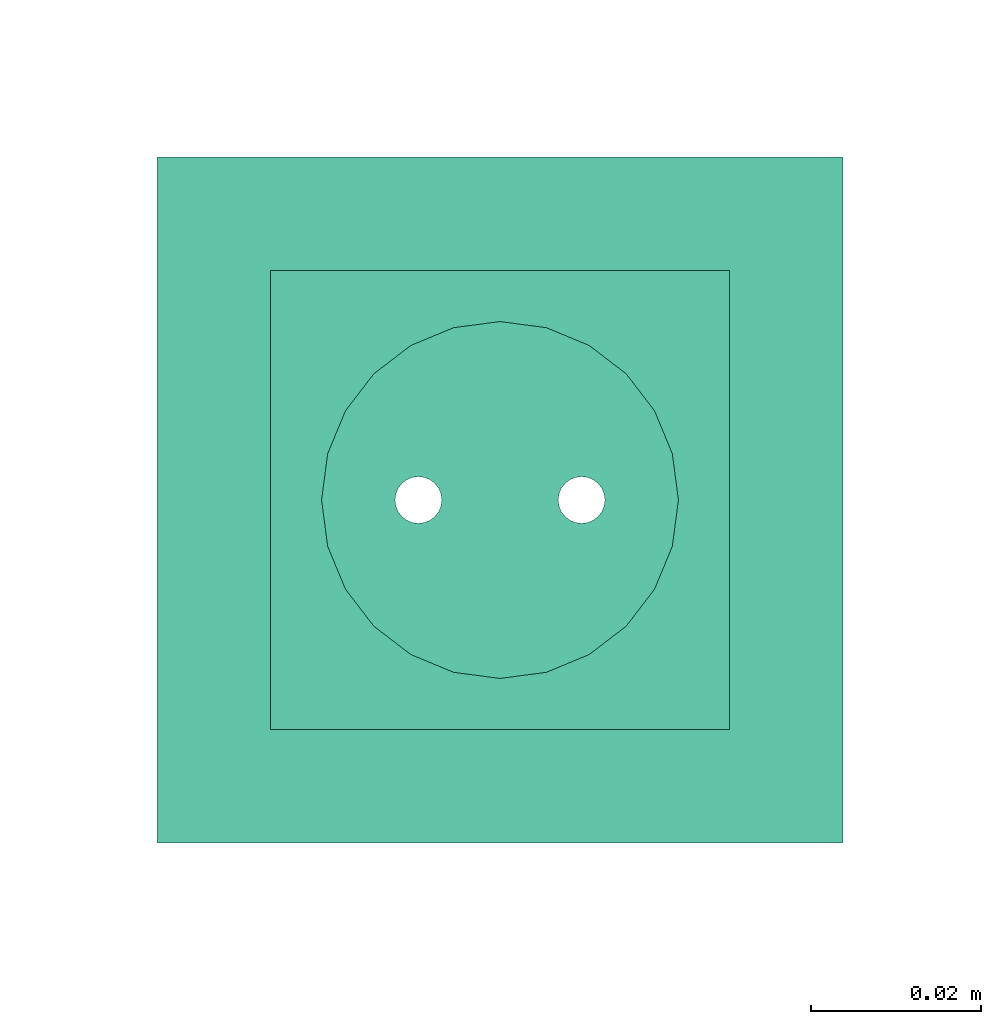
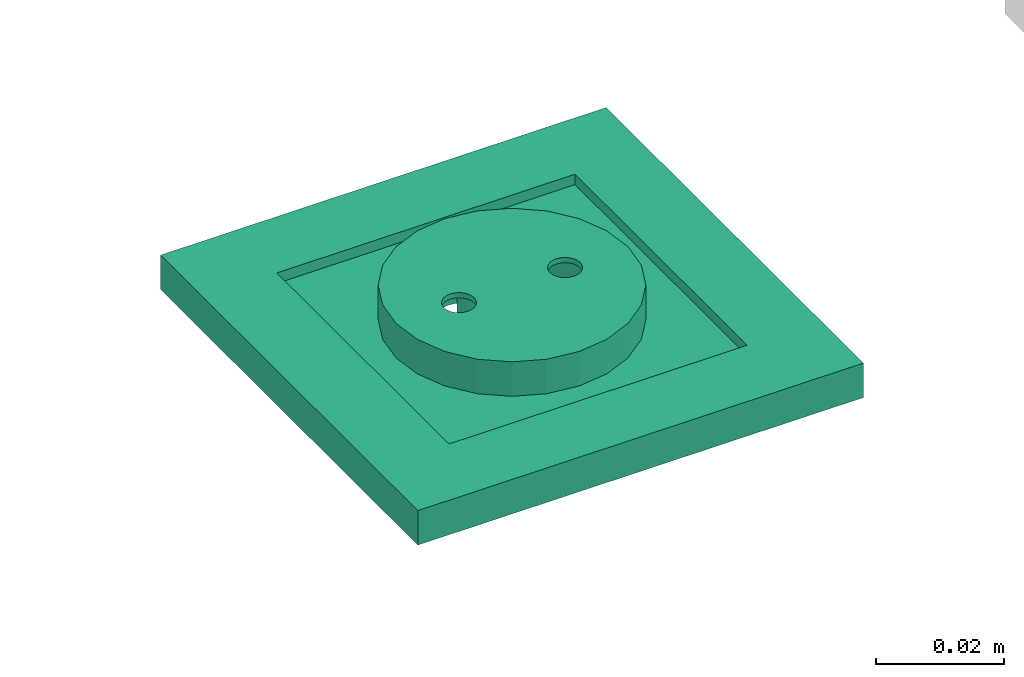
# One storey, part 15 of 146: 1 flow terminal.
"""IFC2X3 building model written with IfcOpenShell, lengths in metres."""

from ifc_helpers import new_model, entity, si_unit, converted_unit, derived_unit, direction, frame, origin, place, context, subcontext, project, spatial, face_set, surface_model, source, transform, mapped, type_object, type_shapes, element, save


model = new_model("IFC2X3")

# Units and contexts
model_context = context("Model", 3, precision=1e-05, world=origin(), true_north=direction((6.12303176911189e-17, 1.0)))
body_context = subcontext(model_context, "Body", "Model", "MODEL_VIEW")
ifc_project = project(units=[si_unit("LENGTHUNIT", "METRE"), si_unit("AREAUNIT", "SQUARE_METRE"), si_unit("VOLUMEUNIT", "CUBIC_METRE"), converted_unit("PLANEANGLEUNIT", "DEGREE", entity("IfcRatioMeasure", 0.0174532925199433), si_unit("PLANEANGLEUNIT", "RADIAN"), dimensions=[0, 0, 0, 0, 0, 0, 0]), si_unit("MASSUNIT", "GRAM", prefix="KILO"), derived_unit("MASSDENSITYUNIT", [(si_unit("MASSUNIT", "GRAM", prefix="KILO"), 1), (si_unit("LENGTHUNIT", "METRE"), -3)]), si_unit("TIMEUNIT", "SECOND"), si_unit("FREQUENCYUNIT", "HERTZ"), si_unit("THERMODYNAMICTEMPERATUREUNIT", "DEGREE_CELSIUS"), derived_unit("THERMALTRANSMITTANCEUNIT", [(si_unit("MASSUNIT", "GRAM", prefix="KILO"), 1), (si_unit("THERMODYNAMICTEMPERATUREUNIT", "KELVIN"), -1), (si_unit("TIMEUNIT", "SECOND"), -3)]), derived_unit("VOLUMETRICFLOWRATEUNIT", [(si_unit("LENGTHUNIT", "METRE"), 3), (si_unit("TIMEUNIT", "SECOND"), -1)]), si_unit("ELECTRICCURRENTUNIT", "AMPERE"), si_unit("ELECTRICVOLTAGEUNIT", "VOLT"), si_unit("POWERUNIT", "WATT"), si_unit("FORCEUNIT", "NEWTON"), si_unit("ILLUMINANCEUNIT", "LUX"), si_unit("LUMINOUSFLUXUNIT", "LUMEN"), si_unit("LUMINOUSINTENSITYUNIT", "CANDELA"), derived_unit("USERDEFINED", [(si_unit("MASSUNIT", "GRAM", prefix="KILO"), -1), (si_unit("LENGTHUNIT", "METRE"), -2), (si_unit("TIMEUNIT", "SECOND"), 3), (si_unit("LUMINOUSFLUXUNIT", "LUMEN"), 1)]), derived_unit("LINEARVELOCITYUNIT", [(si_unit("LENGTHUNIT", "METRE"), 1), (si_unit("TIMEUNIT", "SECOND"), -1)]), si_unit("PRESSUREUNIT", "PASCAL"), derived_unit("USERDEFINED", [(si_unit("LENGTHUNIT", "METRE"), -2), (si_unit("MASSUNIT", "GRAM", prefix="KILO"), 1), (si_unit("TIMEUNIT", "SECOND"), -2)])], contexts=[model_context])

# Site, building, storey
site_placement = place(None, origin())
site = spatial("IfcSite", under=ifc_project, at=site_placement, Name="Default", CompositionType="ELEMENT")
building_placement = place(site_placement, origin())
building = spatial("IfcBuilding", under=site, at=building_placement, CompositionType="ELEMENT")
storey_placement = place(building_placement, origin())
storey = spatial("IfcBuildingStorey", under=building, at=storey_placement, Name="S01", CompositionType="ELEMENT", Elevation=0.0)

# Flow terminal
light_fixture_type = type_object("IfcLightFixtureType", Name="PC IP21", PredefinedType="NOTDEFINED")
shared_shape = source(origin(), body_context, "Body", "SurfaceModel", [
    surface_model("IfcFaceBasedSurfaceModel", [(-0.00225000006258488, 0.0127499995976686, 0.00949633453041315), (0.0, 0.0104999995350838, 0.00949633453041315), (0.0, 0.0115376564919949, 0.0101656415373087), (0.0, 0.0139623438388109, 0.0101656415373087), (0.0, 0.0144589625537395, 0.00984531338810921), (0.0, 0.0121178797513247, 0.0102778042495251), (0.0, 0.0133821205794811, 0.0102778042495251), (0.0, 0.0127499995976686, 0.010399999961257), (0.0, 0.0149999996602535, 0.00949633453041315), (0.00225000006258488, 0.0127499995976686, 0.00949633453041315), (0.0, 0.0110410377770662, 0.00984531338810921), (0.0, 0.0127499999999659, 0.00949633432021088), (0.00225000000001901, 0.0127499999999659, 0.00949633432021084), (0.00217333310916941, 0.0121676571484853, 0.00949633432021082), (0.00194855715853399, 0.0116249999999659, 0.00949633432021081), (0.00159099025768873, 0.0111590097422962, 0.00949633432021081), (0.001125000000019, 0.010801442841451, 0.00949633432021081), (0.00058234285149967, 0.0105766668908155, 0.00949633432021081), (0.0, 0.0104999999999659, 0.00949633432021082), (-0.000582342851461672, 0.0105766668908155, 0.00949633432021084), (-0.001124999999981, 0.010801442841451, 0.00949633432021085), (-0.00159099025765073, 0.0111590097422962, 0.00949633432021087), (-0.00194855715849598, 0.011624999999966, 0.00949633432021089), (-0.0021733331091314, 0.0121676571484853, 0.00949633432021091), (-0.00224999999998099, 0.012749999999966, 0.00949633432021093), (-0.00217333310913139, 0.0133323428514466, 0.00949633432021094), (-0.00194855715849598, 0.013874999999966, 0.00949633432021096), (-0.00159099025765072, 0.0143409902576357, 0.00949633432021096), (-0.00112499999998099, 0.0146985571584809, 0.00949633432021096), (-0.00058234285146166, 0.0149233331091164, 0.00949633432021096), (0.0, 0.0149999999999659, 0.00949633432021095), (0.000582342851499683, 0.0149233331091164, 0.00949633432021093), (0.00112500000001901, 0.0146985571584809, 0.00949633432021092), (0.00159099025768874, 0.0143409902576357, 0.00949633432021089), (0.001948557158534, 0.0138749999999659, 0.00949633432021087), (0.00217333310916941, 0.0133323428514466, 0.00949633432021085), (0.00225000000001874, 0.0127499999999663, -0.00360000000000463), (0.00217333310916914, 0.0121676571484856, -0.00360000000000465), (0.00194855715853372, 0.0116249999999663, -0.00360000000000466), (0.00159099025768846, 0.0111590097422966, -0.00360000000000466), (0.00112500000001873, 0.0108014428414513, -0.00360000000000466), (0.000582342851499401, 0.0105766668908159, -0.00360000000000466), (0.0, 0.0104999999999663, -0.00360000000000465), (-0.000582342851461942, 0.0105766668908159, -0.00360000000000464), (-0.00112499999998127, 0.0108014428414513, -0.00360000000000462), (-0.001590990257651, 0.0111590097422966, -0.0036000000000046), (-0.00194855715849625, 0.0116249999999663, -0.00360000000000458), (-0.00217333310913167, 0.0121676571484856, -0.00360000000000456), (-0.00224999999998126, 0.0127499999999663, -0.00360000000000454), (-0.00217333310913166, 0.013332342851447, -0.00360000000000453), (-0.00194855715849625, 0.0138749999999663, -0.00360000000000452), (-0.00159099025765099, 0.014340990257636, -0.00360000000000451), (-0.00112499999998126, 0.0146985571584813, -0.00360000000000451), (-0.000582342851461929, 0.0149233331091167, -0.00360000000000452), (0.0, 0.0149999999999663, -0.00360000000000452), (0.000582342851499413, 0.0149233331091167, -0.00360000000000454), (0.00112500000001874, 0.0146985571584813, -0.00360000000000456), (0.00159099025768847, 0.014340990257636, -0.00360000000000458), (0.00194855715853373, 0.0138749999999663, -0.0036000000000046), (0.00217333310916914, 0.013332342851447, -0.00360000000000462), (0.0270000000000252, 0.026999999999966, 0.0113999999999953), (-0.0269999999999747, 0.026999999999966, 0.0113999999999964), (-0.0269999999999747, -0.0270000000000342, 0.0113999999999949), (0.0270000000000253, -0.0270000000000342, 0.0113999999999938), (-0.0199999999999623, 0.0, 0.0113999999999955), (-0.0193185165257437, -0.00517638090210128, 0.0113999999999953), (-0.0173205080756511, -0.0100000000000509, 0.0113999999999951), (-0.0141421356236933, -0.0141421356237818, 0.011399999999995), (-0.00999999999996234, -0.0173205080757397, 0.0113999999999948), (-0.00517638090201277, -0.0193185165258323, 0.0113999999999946), (0.0, -0.0200000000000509, 0.0113999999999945), (0.00517638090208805, -0.0193185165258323, 0.0113999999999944), (0.0100000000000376, -0.0173205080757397, 0.0113999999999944), (0.0141421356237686, -0.0141421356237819, 0.0113999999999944), (0.0173205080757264, -0.010000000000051, 0.0113999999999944), (0.0193185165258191, -0.00517638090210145, 0.0113999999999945), (0.0200000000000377, 0.0, 0.0113999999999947), (0.0193185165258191, 0.00517638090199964, 0.0113999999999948), (0.0173205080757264, 0.0099999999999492, 0.011399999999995), (0.0141421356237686, 0.0141421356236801, 0.0113999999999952), (0.0100000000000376, 0.0173205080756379, 0.0113999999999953), (0.00517638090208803, 0.0193185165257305, 0.0113999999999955), (0.0, 0.0199999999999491, 0.0113999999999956), (-0.00517638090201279, 0.0193185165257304, 0.0113999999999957), (-0.00999999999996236, 0.0173205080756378, 0.0113999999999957), (-0.0141421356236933, 0.01414213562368, 0.0113999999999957), (-0.0173205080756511, 0.00999999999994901, 0.0113999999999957), (-0.0193185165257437, 0.00517638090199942, 0.0113999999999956), (0.0270000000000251, 0.0269999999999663, 0.00199999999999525), (0.0270000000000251, -0.0270000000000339, 0.00199999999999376), (-0.0269999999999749, -0.0270000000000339, 0.00199999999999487), (-0.0269999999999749, 0.0269999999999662, 0.00199999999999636), (0.0210000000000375, 0.0, 0.00199999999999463), (0.0202844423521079, -0.00543519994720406, 0.00199999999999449), (0.0181865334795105, -0.0105000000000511, 0.0019999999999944), (0.0148492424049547, -0.0148492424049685, 0.00199999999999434), (0.0105000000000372, -0.0181865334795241, 0.00199999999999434), (0.0054351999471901, -0.0202844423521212, 0.00199999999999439), (0.0, -0.0210000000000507, 0.00199999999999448), (-0.00543519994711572, -0.020284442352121, 0.00199999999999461), (-0.0104999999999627, -0.0181865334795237, 0.00199999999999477), (-0.0148492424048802, -0.014849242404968, 0.00199999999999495), (-0.0181865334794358, -0.0105000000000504, 0.00199999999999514), (-0.020284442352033, -0.00543519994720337, 0.00199999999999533), (-0.0209999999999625, 0.0, 0.00199999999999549), (-0.0202844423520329, 0.0054351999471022, 0.00199999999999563), (-0.0181865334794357, 0.0104999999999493, 0.00199999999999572), (-0.01484924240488, 0.0148492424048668, 0.00199999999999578), (-0.0104999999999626, 0.0181865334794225, 0.00199999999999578), (-0.00543519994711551, 0.0202844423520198, 0.00199999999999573), (0.0, 0.0209999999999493, 0.00199999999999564), (0.00543519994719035, 0.0202844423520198, 0.00199999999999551), (0.0105000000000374, 0.0181865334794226, 0.00199999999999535), (0.0148492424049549, 0.0148492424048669, 0.00199999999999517), (0.0181865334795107, 0.0104999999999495, 0.00199999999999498), (0.0202844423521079, 0.00543519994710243, 0.00199999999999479), (0.0200000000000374, 0.0, -0.00360000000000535), (0.0193185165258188, -0.00517638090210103, -0.00360000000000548), (0.0173205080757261, -0.0100000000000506, -0.00360000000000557), (0.0141421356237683, -0.0141421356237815, -0.00360000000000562), (0.0100000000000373, -0.0173205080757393, -0.00360000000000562), (0.00517638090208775, -0.0193185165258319, -0.00360000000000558), (0.0, -0.0200000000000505, -0.00360000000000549), (-0.00517638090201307, -0.0193185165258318, -0.00360000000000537), (-0.00999999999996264, -0.0173205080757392, -0.00360000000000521), (-0.0141421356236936, -0.0141421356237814, -0.00360000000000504), (-0.0173205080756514, -0.0100000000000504, -0.00360000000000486), (-0.019318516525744, -0.00517638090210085, -0.00360000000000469), (-0.0199999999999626, 0.0, -0.00360000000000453), (-0.0193185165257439, 0.00517638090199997, -0.0036000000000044), (-0.0173205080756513, 0.00999999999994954, -0.00360000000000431), (-0.0141421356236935, 0.0141421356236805, -0.00360000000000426), (-0.00999999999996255, 0.0173205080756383, -0.00360000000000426), (-0.00517638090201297, 0.0193185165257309, -0.0036000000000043), (0.0, 0.0199999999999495, -0.00360000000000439), (0.00517638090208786, 0.0193185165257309, -0.00360000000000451), (0.0100000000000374, 0.0173205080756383, -0.00360000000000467), (0.0141421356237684, 0.0141421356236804, -0.00360000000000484), (0.0173205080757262, 0.0099999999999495, -0.00360000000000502), (0.0193185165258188, 0.00517638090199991, -0.00360000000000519), (-0.0123499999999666, 0.0, -0.00360000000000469), (-0.0122562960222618, -0.000711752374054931, -0.00360000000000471), (-0.0119815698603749, -0.00137500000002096, -0.00360000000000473), (-0.0115445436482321, -0.00194454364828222, -0.00360000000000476), (-0.0109749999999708, -0.00238156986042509, -0.00360000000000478), (-0.0103117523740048, -0.00265629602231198, -0.0036000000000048), (-0.00959999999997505, -0.00275000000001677, -0.00360000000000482), (-0.0088882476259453, -0.00265629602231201, -0.00360000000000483), (-0.00822499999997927, -0.00238156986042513, -0.00360000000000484), (-0.00765545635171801, -0.00194454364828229, -0.00360000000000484), (-0.00721843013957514, -0.00137500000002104, -0.00360000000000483), (-0.00694370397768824, -0.000711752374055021, -0.00360000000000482), (-0.00684999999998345, 0.0, -0.0036000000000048), (-0.00694370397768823, 0.000711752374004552, -0.00360000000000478), (-0.00721843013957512, 0.00137499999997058, -0.00360000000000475), (-0.00765545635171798, 0.00194454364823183, -0.00360000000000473), (-0.00822499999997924, 0.00238156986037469, -0.0036000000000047), (-0.00888824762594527, 0.00265629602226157, -0.00360000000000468), (-0.00959999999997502, 0.00274999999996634, -0.00360000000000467), (-0.0103117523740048, 0.00265629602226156, -0.00360000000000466), (-0.0109749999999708, 0.00238156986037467, -0.00360000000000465), (-0.011544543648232, 0.00194454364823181, -0.00360000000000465), (-0.0119815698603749, 0.00137499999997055, -0.00360000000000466), (-0.0122562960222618, 0.000711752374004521, -0.00360000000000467), (0.00685000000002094, 0.0, -0.00360000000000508), (0.0069437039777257, -0.00071175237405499, -0.0036000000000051), (0.00721843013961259, -0.00137500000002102, -0.00360000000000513), (0.00765545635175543, -0.00194454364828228, -0.00360000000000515), (0.00822500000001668, -0.00238156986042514, -0.00360000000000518), (0.00888824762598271, -0.00265629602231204, -0.0036000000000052), (0.00960000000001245, -0.00275000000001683, -0.00360000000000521), (0.0103117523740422, -0.00265629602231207, -0.00360000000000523), (0.0109750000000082, -0.00238156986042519, -0.00360000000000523), (0.0115445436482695, -0.00194454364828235, -0.00360000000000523), (0.0119815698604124, -0.0013750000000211, -0.00360000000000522), (0.0122562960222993, -0.00071175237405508, -0.00360000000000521), (0.012350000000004, 0.0, -0.00360000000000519), (0.0122562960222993, 0.000711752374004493, -0.00360000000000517), (0.0119815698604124, 0.00137499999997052, -0.00360000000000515), (0.0115445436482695, 0.00194454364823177, -0.00360000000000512), (0.0109750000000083, 0.00238156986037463, -0.0036000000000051), (0.0103117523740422, 0.00265629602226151, -0.00360000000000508), (0.00960000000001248, 0.00274999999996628, -0.00360000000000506), (0.00888824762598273, 0.0026562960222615, -0.00360000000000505), (0.0082250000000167, 0.00238156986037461, -0.00360000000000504), (0.00765545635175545, 0.00194454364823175, -0.00360000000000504), (0.0072184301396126, 0.00137499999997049, -0.00360000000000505), (0.00694370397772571, 0.000711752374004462, -0.00360000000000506), (0.0210000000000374, 0.0, -0.00460000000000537), (0.0202844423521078, -0.00543519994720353, -0.00460000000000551), (0.0181865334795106, -0.0105000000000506, -0.0046000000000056), (0.0148492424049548, -0.0148492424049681, -0.00460000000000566), (0.0105000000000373, -0.0181865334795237, -0.00460000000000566), (0.00543519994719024, -0.0202844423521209, -0.00460000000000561), (0.0, -0.0210000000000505, -0.00460000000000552), (-0.00543519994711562, -0.0202844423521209, -0.00460000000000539), (-0.0104999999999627, -0.0181865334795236, -0.00460000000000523), (-0.0148492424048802, -0.0148492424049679, -0.00460000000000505), (-0.0181865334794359, -0.0105000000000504, -0.00460000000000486), (-0.0202844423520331, -0.00543519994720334, -0.00460000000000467), (-0.0209999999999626, 0.0, -0.00460000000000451), (-0.020284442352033, 0.00543519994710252, -0.00460000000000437), (-0.0181865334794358, 0.0104999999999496, -0.00460000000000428), (-0.0148492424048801, 0.0148492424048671, -0.00460000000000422), (-0.0104999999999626, 0.0181865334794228, -0.00460000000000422), (-0.00543519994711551, 0.02028444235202, -0.00460000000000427), (0.0, 0.0209999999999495, -0.00460000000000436), (0.00543519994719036, 0.02028444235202, -0.00460000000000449), (0.0105000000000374, 0.0181865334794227, -0.00460000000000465), (0.0148492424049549, 0.014849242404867, -0.00460000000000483), (0.0181865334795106, 0.0104999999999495, -0.00460000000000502), (0.0202844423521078, 0.00543519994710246, -0.00460000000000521), (-0.00684999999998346, 0.0, -0.0046000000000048), (-0.00694370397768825, 0.000711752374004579, -0.00460000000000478), (-0.00721843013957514, 0.00137499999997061, -0.00460000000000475), (-0.007655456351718, 0.00194454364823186, -0.00460000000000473), (-0.00822499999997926, 0.00238156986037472, -0.0046000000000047), (-0.00888824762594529, 0.0026562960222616, -0.00460000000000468), (-0.00959999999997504, 0.00274999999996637, -0.00460000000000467), (-0.0103117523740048, 0.00265629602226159, -0.00460000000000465), (-0.0109749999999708, 0.0023815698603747, -0.00460000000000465), (-0.0115445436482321, 0.00194454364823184, -0.00460000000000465), (-0.0119815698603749, 0.00137499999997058, -0.00460000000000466), (-0.0122562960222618, 0.000711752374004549, -0.00460000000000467), (-0.0123499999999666, 0.0, -0.00460000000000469), (-0.0122562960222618, -0.000711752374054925, -0.00460000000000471), (-0.0119815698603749, -0.00137500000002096, -0.00460000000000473), (-0.0115445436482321, -0.00194454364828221, -0.00460000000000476), (-0.0109749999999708, -0.00238156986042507, -0.00460000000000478), (-0.0103117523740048, -0.00265629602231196, -0.0046000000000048), (-0.00959999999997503, -0.00275000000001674, -0.00460000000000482), (-0.00888824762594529, -0.00265629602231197, -0.00460000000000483), (-0.00822499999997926, -0.00238156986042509, -0.00460000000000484), (-0.007655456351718, -0.00194454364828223, -0.00460000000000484), (-0.00721843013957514, -0.00137500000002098, -0.00460000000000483), (-0.00694370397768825, -0.000711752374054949, -0.00460000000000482), (0.012350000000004, 0.0, -0.00460000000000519), (0.0122562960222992, 0.000711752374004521, -0.00460000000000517), (0.0119815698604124, 0.00137499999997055, -0.00460000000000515), (0.0115445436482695, 0.0019445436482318, -0.00460000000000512), (0.0109750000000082, 0.00238156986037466, -0.0046000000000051), (0.0103117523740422, 0.00265629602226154, -0.00460000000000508), (0.00960000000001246, 0.00274999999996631, -0.00460000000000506), (0.00888824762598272, 0.00265629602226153, -0.00460000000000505), (0.00822500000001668, 0.00238156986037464, -0.00460000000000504), (0.00765545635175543, 0.00194454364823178, -0.00460000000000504), (0.00721843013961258, 0.00137499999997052, -0.00460000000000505), (0.00694370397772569, 0.00071175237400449, -0.00460000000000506), (0.00685000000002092, 0.0, -0.00460000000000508), (0.00694370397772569, -0.000711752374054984, -0.0046000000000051), (0.00721843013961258, -0.00137500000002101, -0.00460000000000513), (0.00765545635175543, -0.00194454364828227, -0.00460000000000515), (0.00822500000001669, -0.00238156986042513, -0.00460000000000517), (0.00888824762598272, -0.00265629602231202, -0.0046000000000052), (0.00960000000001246, -0.0027500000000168, -0.00460000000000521), (0.0103117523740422, -0.00265629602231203, -0.00460000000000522), (0.0109750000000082, -0.00238156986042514, -0.00460000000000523), (0.0115445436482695, -0.00194454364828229, -0.00460000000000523), (0.0119815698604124, -0.00137500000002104, -0.00460000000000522), (0.0122562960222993, -0.000711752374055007, -0.00460000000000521), (0.040350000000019, 0.0403499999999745, 0.00659999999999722), (0.040350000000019, -0.0403500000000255, 0.00659999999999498), (-0.0403499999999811, -0.0403500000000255, 0.00659999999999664), (-0.0403499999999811, 0.0403499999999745, 0.00659999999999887), (0.027000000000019, 0.0269999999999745, 0.00659999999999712), (-0.0269999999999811, 0.0269999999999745, 0.00659999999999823), (-0.026999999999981, -0.0270000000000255, 0.00659999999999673), (0.027000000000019, -0.0270000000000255, 0.00659999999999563), (0.027000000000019, 0.0269999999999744, 0.0103999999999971), (-0.026999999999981, 0.0269999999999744, 0.0103999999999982), (-0.026999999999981, -0.0270000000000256, 0.0103999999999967), (0.027000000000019, -0.0270000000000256, 0.0103999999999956), (0.040350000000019, 0.0403499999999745, 0.00659999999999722), (0.040350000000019, -0.0403500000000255, 0.00659999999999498), (-0.0403499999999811, -0.0403500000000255, 0.00659999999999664), (-0.0403499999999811, 0.0403499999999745, 0.00659999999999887), (-0.0269999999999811, 0.0269999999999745, 0.00659999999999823), (-0.0269999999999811, -0.0270000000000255, 0.00659999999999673), (0.0270000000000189, -0.0270000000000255, 0.00659999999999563), (0.0270000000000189, 0.0269999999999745, 0.00659999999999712), (0.0403500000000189, 0.0403499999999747, 0.0), (0.0403500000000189, -0.0403500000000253, 0.0), (-0.0403499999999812, -0.0403500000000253, 0.0), (-0.0403499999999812, 0.0403499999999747, 0.0), (0.0270000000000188, 0.0269999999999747, 0.0), (-0.0269999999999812, 0.0269999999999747, 0.0), (-0.0269999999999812, -0.0270000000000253, 0.0), (0.0270000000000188, -0.0270000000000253, 0.0)], [face_set([[[0, 1, 2]], [[3, 4, 2, 5]], [[6, 3, 5, 7]], [[2, 4, 0]], [[4, 8, 0]], [[3, 9, 8]], [[1, 9, 10]], [[2, 3, 6, 7]], [[3, 10, 9]], [[2, 10, 3]], [[11, 1, 0, 8]], [[11, 8, 9, 1]]]), face_set([[[12, 13, 14, 15, 16, 17, 18, 19, 20, 21, 22, 23, 24, 25, 26, 27, 28, 29, 30, 31, 32, 33, 34, 35]], [[36, 37, 38, 39, 40, 41, 42, 43, 44, 45, 46, 47, 48, 49, 50, 51, 52, 53, 54, 55, 56, 57, 58, 59]], [[48, 47, 23, 24]], [[47, 46, 22, 23]], [[45, 44, 20, 21]], [[46, 45, 21, 22]], [[44, 43, 19, 20]], [[18, 19, 43, 42]], [[42, 41, 17, 18]], [[41, 40, 16, 17]], [[39, 38, 14, 15]], [[40, 39, 15, 16]], [[38, 37, 13, 14]], [[12, 13, 37, 36]], [[36, 59, 35, 12]], [[59, 58, 34, 35]], [[57, 56, 32, 33]], [[58, 57, 33, 34]], [[56, 55, 31, 32]], [[30, 31, 55, 54]], [[54, 53, 29, 30]], [[53, 52, 28, 29]], [[51, 50, 26, 27]], [[52, 51, 27, 28]], [[50, 49, 25, 26]], [[24, 25, 49, 48]]]), face_set([[[60, 61, 62, 63], [64, 65, 66, 67, 68, 69, 70, 71, 72, 73, 74, 75, 76, 77, 78, 79, 80, 81, 82, 83, 84, 85, 86, 87]], [[88, 89, 90, 91], [92, 93, 94, 95, 96, 97, 98, 99, 100, 101, 102, 103, 104, 105, 106, 107, 108, 109, 110, 111, 112, 113, 114, 115]], [[61, 60, 88, 91]], [[62, 61, 91, 90]], [[63, 62, 90, 89]], [[60, 63, 89, 88]], [[116, 117, 118, 119, 120, 121, 122, 123, 124, 125, 126, 127, 128, 129, 130, 131, 132, 133, 134, 135, 136, 137, 138, 139], [140, 141, 142, 143, 144, 145, 146, 147, 148, 149, 150, 151, 152, 153, 154, 155, 156, 157, 158, 159, 160, 161, 162, 163], [164, 165, 166, 167, 168, 169, 170, 171, 172, 173, 174, 175, 176, 177, 178, 179, 180, 181, 182, 183, 184, 185, 186, 187]], [[64, 128, 127, 65]], [[65, 127, 126, 66]], [[67, 125, 124, 68]], [[66, 126, 125, 67]], [[68, 124, 123, 69]], [[122, 70, 69, 123]], [[70, 122, 121, 71]], [[71, 121, 120, 72]], [[73, 119, 118, 74]], [[72, 120, 119, 73]], [[74, 118, 117, 75]], [[116, 76, 75, 117]], [[76, 116, 139, 77]], [[77, 139, 138, 78]], [[79, 137, 136, 80]], [[78, 138, 137, 79]], [[80, 136, 135, 81]], [[134, 82, 81, 135]], [[82, 134, 133, 83]], [[83, 133, 132, 84]], [[84, 132, 131, 85]], [[85, 131, 130, 86]], [[130, 129, 87, 86]], [[64, 87, 129, 128]], [[188, 189, 190, 191, 192, 193, 194, 195, 196, 197, 198, 199, 200, 201, 202, 203, 204, 205, 206, 207, 208, 209, 210, 211], [212, 213, 214, 215, 216, 217, 218, 219, 220, 221, 222, 223, 224, 225, 226, 227, 228, 229, 230, 231, 232, 233, 234, 235], [236, 237, 238, 239, 240, 241, 242, 243, 244, 245, 246, 247, 248, 249, 250, 251, 252, 253, 254, 255, 256, 257, 258, 259]], [[200, 199, 103, 104]], [[199, 198, 102, 103]], [[197, 196, 100, 101]], [[198, 197, 101, 102]], [[196, 195, 99, 100]], [[98, 99, 195, 194]], [[194, 193, 97, 98]], [[193, 192, 96, 97]], [[191, 190, 94, 95]], [[192, 191, 95, 96]], [[190, 189, 93, 94]], [[92, 93, 189, 188]], [[188, 211, 115, 92]], [[211, 210, 114, 115]], [[209, 208, 112, 113]], [[210, 209, 113, 114]], [[208, 207, 111, 112]], [[110, 111, 207, 206]], [[206, 205, 109, 110]], [[205, 204, 108, 109]], [[203, 202, 106, 107]], [[204, 203, 107, 108]], [[202, 201, 105, 106]], [[104, 105, 201, 200]], [[141, 225, 226, 142]], [[140, 224, 225, 141]], [[144, 228, 229, 145]], [[143, 227, 228, 144]], [[142, 226, 227, 143]], [[230, 146, 145, 229]], [[149, 233, 232, 148]], [[148, 232, 231, 147]], [[152, 212, 235, 151]], [[151, 235, 234, 150]], [[150, 234, 233, 149]], [[146, 230, 231, 147]], [[154, 214, 213, 153]], [[153, 213, 212, 152]], [[157, 217, 216, 156]], [[156, 216, 215, 155]], [[155, 215, 214, 154]], [[218, 158, 157, 217]], [[160, 220, 221, 161]], [[159, 219, 220, 160]], [[163, 223, 224, 140]], [[162, 222, 223, 163]], [[161, 221, 222, 162]], [[158, 218, 219, 159]], [[166, 250, 249, 165]], [[165, 249, 248, 164]], [[169, 253, 252, 168]], [[168, 252, 251, 167]], [[167, 251, 250, 166]], [[254, 170, 169, 253]], [[172, 256, 257, 173]], [[171, 255, 256, 172]], [[175, 259, 236, 176]], [[174, 258, 259, 175]], [[173, 257, 258, 174]], [[170, 254, 255, 171]], [[177, 237, 238, 178]], [[176, 236, 237, 177]], [[180, 240, 241, 181]], [[179, 239, 240, 180]], [[178, 238, 239, 179]], [[242, 182, 181, 241]], [[185, 245, 244, 184]], [[184, 244, 243, 183]], [[164, 248, 247, 187]], [[187, 247, 246, 186]], [[186, 246, 245, 185]], [[182, 242, 243, 183]]]), face_set([[[260, 261, 262, 263], [264, 265, 266, 267]], [[260, 268, 269, 263]], [[263, 269, 270, 262]], [[262, 270, 271, 261]], [[261, 271, 268, 260]], [[264, 265, 269, 268]], [[265, 266, 270, 269]], [[266, 267, 271, 270]], [[268, 271, 267, 264]]]), face_set([[[272, 273, 274, 275], [276, 277, 278, 279]], [[280, 281, 282, 283], [284, 285, 286, 287]], [[275, 272, 280, 283]], [[274, 275, 283, 282]], [[273, 274, 282, 281]], [[272, 273, 281, 280]], [[284, 285, 276, 279]], [[285, 286, 277, 276]], [[286, 287, 278, 277]], [[279, 278, 287, 284]]])]),
])
type_shapes(light_fixture_type, [shared_shape])
flow_terminal_placement = place(storey_placement, frame((26.9798513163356, -188.940435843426, 7.64), z_axis=(0.0, 0.0, -1.0), x_axis=(-1.0, 0.0, 0.0)))
element("IfcFlowTerminal", 1, at=flow_terminal_placement, inside=storey, type_object=light_fixture_type, Name="INT Prise de courant:PC IP21", ObjectType="INT Prise de courant:PC IP21", context=body_context, shape_type="MappedRepresentation", body=[
    mapped(shared_shape, transform((0.0, 0.0, 0.0), scale=1.0)),
])

save(model, "model.ifc")
